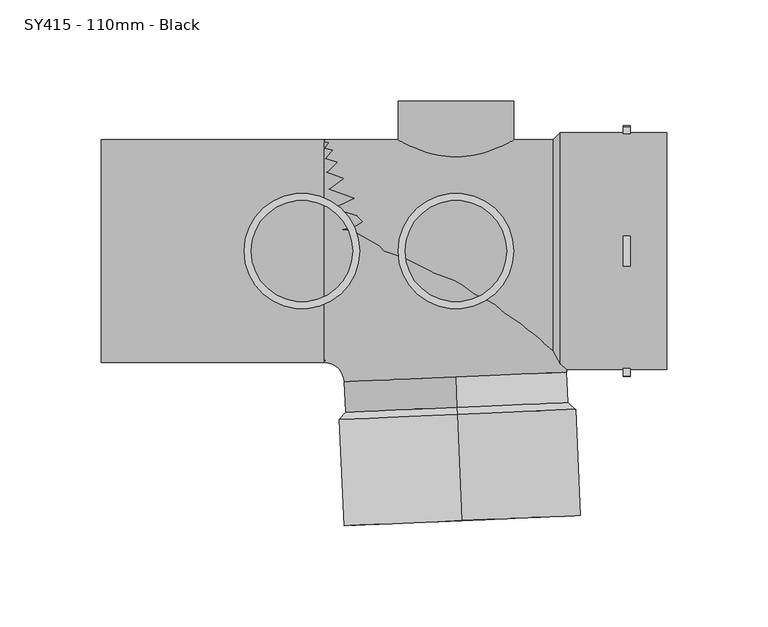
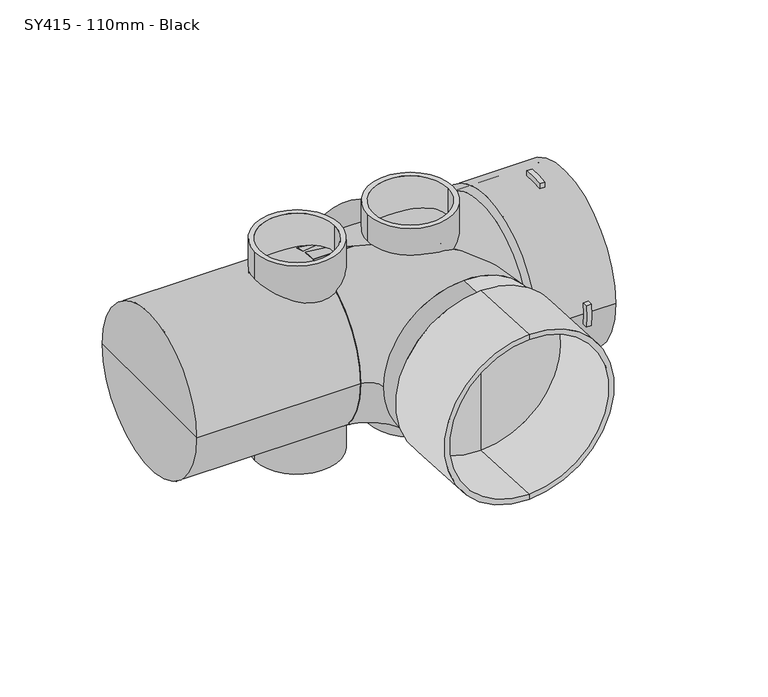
"""IFC4 building model written with IfcOpenShell, lengths in millimetres: pipe fitting geometry, MarleyPlumbingAndDrainage_PipeFitting_FiveBossBranch87-5 : SY415 - 110mm - Black."""

from ifc_helpers import new_model, si_unit, point, frame, frame_2d, origin, origin_2d, place, context, project, spatial, polyline, circle_curve, ellipse_curve, trimmed, segment, composite_curve, outline, extrude, source, transform, mapped, element, save
from ifc_brep_helpers import plane_surface, cylinder_surface, revolved_surface, advanced_brep


def sy415_110mm_black_735aa494(model_context):
    return source(origin(), model_context, "Body", "SolidModel", [
        advanced_brep(
        [(1.1473831, -62.1647398, 55.0), (1.1473831, -62.1647398, -55.0), (1.8016739, -77.1504631, -55.0), (1.8016739, -77.1504631, 55.0), (1.1473831, -62.1647398, 0.0), (1.8016739, -77.1504631, 0.0)],
        [
            (0, 1, circle_curve(frame((1.1473831, -62.1647398, 0.0), z_axis=(0.04361938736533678, -0.9990482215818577, 0.0), x_axis=(0.0, 0.0, -1.0000000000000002)), 55.0)),
            (1, 2),
            (2, 3, circle_curve(frame((1.8016739, -77.1504631, 0.0), z_axis=(-0.04361938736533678, 0.9990482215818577, 0.0), x_axis=(0.0, 0.0, -1.0000000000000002)), 55.0)),
            (3, 0),
            (1, 0, circle_curve(frame((1.1473831, -62.1647398, 0.0), z_axis=(0.04361938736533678, -0.9990482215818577, 0.0), x_axis=(0.0, 0.0, -1.0000000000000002)), 55.0)),
            (3, 2, circle_curve(frame((1.8016739, -77.1504631, 0.0), z_axis=(-0.04361938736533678, 0.9990482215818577, 0.0), x_axis=(0.0, 0.0, -1.0000000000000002)), 55.0)),
            (4, 1),
            (0, 4),
            (2, 5),
            (5, 3),
        ],
        [
            cylinder_surface(frame((-1.0631654, -11.5348565, 0.0), z_axis=(-0.04361938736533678, 0.9990482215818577, 0.0), x_axis=(0.0, 0.0, -1.0000000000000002)), 55.0),
            plane_surface(frame((1.1473831, -62.1647398, 0.0), z_axis=(-0.04361938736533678, 0.9990482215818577, 0.0), x_axis=(0.0, 0.0, -1.0))),
            plane_surface(frame((1.8016739, -77.1504631, 0.0), z_axis=(0.04361938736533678, -0.9990482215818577, 0.0), x_axis=(0.0, 0.0, -1.0))),
        ],
        [
            (0, [[1, 2, 3, 4]]),
            (0, [[5, -4, 6, -2]]),
            (1, [[7, -1, 8]]),
            (1, [[-8, -5, -7]]),
            (2, [[-3, 9, 10]]),
            (2, [[-6, -10, -9]]),
        ],
    ),
        advanced_brep(
        [(4.2443596, -133.0971636, -55.0), (4.2443596, -133.0971636, 55.0), (4.2443596, -133.0971636, 58.5), (4.2443596, -133.0971636, -58.5), (1.9543417, -80.6471319, 58.5), (1.9543417, -80.6471319, -58.5), (1.8016739, -77.1504631, 54.9860468), (1.8016739, -77.1504631, -54.9860468), (1.9543417, -80.6471319, -55.0), (1.9543417, -80.6471319, 55.0), (1.9543417, -80.6471319, 0.0), (1.8016739, -77.1504631, 0.0)],
        [
            (0, 1, circle_curve(frame((4.2443596, -133.0971636, 0.0), z_axis=(-0.04361938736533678, 0.9990482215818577, 0.0), x_axis=(0.0, 0.0, 1.0000000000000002)), 55.0)),
            (1, 2),
            (2, 3, circle_curve(frame((4.2443596, -133.0971636, 0.0), z_axis=(0.04361938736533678, -0.9990482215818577, 0.0), x_axis=(0.0, 0.0, 1.0000000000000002)), 58.5)),
            (3, 0),
            (1, 0, circle_curve(frame((4.2443596, -133.0971636, 0.0), z_axis=(-0.04361938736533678, 0.9990482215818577, 0.0), x_axis=(0.0, 0.0, 1.0000000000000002)), 55.0)),
            (3, 2, circle_curve(frame((4.2443596, -133.0971636, 0.0), z_axis=(0.04361938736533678, -0.9990482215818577, 0.0), x_axis=(0.0, 0.0, 1.0000000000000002)), 58.5)),
            (2, 4),
            (4, 5, circle_curve(frame((1.9543417, -80.6471319, 0.0), z_axis=(0.04361938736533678, -0.9990482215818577, 0.0), x_axis=(0.0, 0.0, 1.0000000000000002)), 58.5)),
            (5, 3),
            (5, 4, circle_curve(frame((1.9543417, -80.6471319, 0.0), z_axis=(0.04361938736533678, -0.9990482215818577, 0.0), x_axis=(0.0, 0.0, 1.0000000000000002)), 58.5)),
            (4, 6),
            (6, 7, circle_curve(frame((1.8016739, -77.1504631, 0.0), z_axis=(0.04361938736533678, -0.9990482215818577, 0.0), x_axis=(0.0, 0.0, 1.0000000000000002)), 54.9860468)),
            (7, 5),
            (7, 6, circle_curve(frame((1.8016739, -77.1504631, 0.0), z_axis=(0.04361938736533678, -0.9990482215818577, 0.0), x_axis=(0.0, 0.0, 1.0000000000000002)), 54.9860468)),
            (8, 9, circle_curve(frame((1.9543417, -80.6471319, 0.0), z_axis=(-0.04361938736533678, 0.9990482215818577, 0.0), x_axis=(0.0, 0.0, 1.0000000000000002)), 55.0)),
            (9, 1),
            (0, 8),
            (9, 8, circle_curve(frame((1.9543417, -80.6471319, 0.0), z_axis=(-0.04361938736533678, 0.9990482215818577, 0.0), x_axis=(0.0, 0.0, 1.0000000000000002)), 55.0)),
            (10, 9),
            (8, 10),
            (6, 11),
            (11, 7),
        ],
        [
            plane_surface(frame((4.2443596, -133.0971636, 0.0), z_axis=(0.04361938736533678, -0.9990482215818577, 0.0), x_axis=(0.0, 0.0, 1.0))),
            cylinder_surface(frame((-1.593666, 0.6156066, 0.0), z_axis=(0.04361938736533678, -0.9990482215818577, 0.0), x_axis=(0.0, 0.0, 1.0000000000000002)), 58.5),
            revolved_surface(polyline([(1.8016739, -77.1504631, 54.9860468), (1.9543417, -80.6471319, 58.5)]), (-1.593666, 0.6156066, 0.0), (0.04361938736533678, -0.9990482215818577, 0.0)),
            revolved_surface(polyline([(4.244359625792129, -133.09716359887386, 55.000000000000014), (1.954341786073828, -80.64713189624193, 55.000000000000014)]), (-1.593666, 0.6156066, 0.0), (0.04361938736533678, -0.9990482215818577, 0.0)),
            plane_surface(frame((1.9543417, -80.6471319, 0.0), z_axis=(0.04361938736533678, -0.9990482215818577, 0.0), x_axis=(0.0, 0.0, 1.0))),
            plane_surface(frame((1.8016739, -77.1504631, 0.0), z_axis=(-0.04361938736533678, 0.9990482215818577, 0.0), x_axis=(0.0, 0.0, 1.0))),
        ],
        [
            (0, [[1, 2, 3, 4]]),
            (0, [[5, -4, 6, -2]]),
            (1, [[-3, 7, 8, 9]]),
            (1, [[-6, -9, 10, -7]]),
            (2, [[-8, 11, 12, 13]]),
            (2, [[-10, -13, 14, -11]]),
            (3, [[15, 16, -1, 17]]),
            (3, [[18, -17, -5, -16]]),
            (4, [[19, -15, 20]]),
            (4, [[-20, -18, -19]]),
            (5, [[-12, 21, 22]]),
            (5, [[-14, -22, -21]]),
        ],
    ),
        advanced_brep(
        [(-63.7907513, -55.0, 0.0), (-63.7907513, 55.0, 0.0), (-53.8002691, -64.5638061, 0.0), (56.0950353, -59.7656735, 0.0)],
        [
            (0, 1, circle_curve(frame((-63.7907513, 0.0, 0.0), z_axis=(-1.0, 0.0, 0.0), x_axis=(0.0, 1.0, 0.0)), 55.0)),
            (1, 0, circle_curve(frame((-63.7907513, 0.0, 0.0), z_axis=(-1.0, 0.0, 0.0), x_axis=(0.0, 1.0, 0.0)), 55.0)),
            (2, 3, circle_curve(frame((1.1473831, -62.1647398, 0.0), z_axis=(0.0436193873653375, -0.9990482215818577, 0.0), x_axis=(0.9990482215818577, 0.0436193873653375, 0.0)), 55.0)),
            (3, 2, circle_curve(frame((1.1473831, -62.1647398, 0.0), z_axis=(0.0436193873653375, -0.9990482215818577, 0.0), x_axis=(0.9990482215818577, 0.0436193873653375, 0.0)), 55.0)),
            (3, 1, circle_curve(frame((-63.7907513, -65.0, 0.0), z_axis=(0.0, 0.0, 1.0), x_axis=(0.0, 1.0, 0.0)), 120.0)),
            (0, 2, circle_curve(frame((-63.7907513, -65.0, 0.0), z_axis=(0.0, 0.0, -1.0), x_axis=(0.0, 1.0, 0.0)), 10.0)),
        ],
        [
            plane_surface(frame((-63.7907513, 0.0, 0.0), z_axis=(-1.0, 0.0, 0.0), x_axis=(0.0, 0.0, 1.0))),
            plane_surface(frame((1.1473831, -62.1647398, 0.0), z_axis=(0.0436193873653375, -0.9990482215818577, 0.0), x_axis=(0.0, 0.0, 1.0))),
            revolved_surface(trimmed(ellipse_curve(frame((-63.7907513, 0.0, 0.0), z_axis=(-1.0, 0.0, 0.0), x_axis=(0.0, 1.0, 0.0)), 55.0, 55.0), [point((-63.7907513, -55.0, 0.0))], [point((-63.7907513, 55.0, 0.0))], True, "CARTESIAN"), (-63.7907513, -65.0, 0.0), (0.0, 0.0, -1.0)),
            revolved_surface(trimmed(ellipse_curve(frame((-63.7907513, 0.0, 0.0), z_axis=(-1.0, 0.0, 0.0), x_axis=(0.0, 1.0, 0.0)), 55.0, 55.0), [point((-63.7907513, 55.0, 0.0))], [point((-63.7907513, -55.0, 0.0))], True, "CARTESIAN"), (-63.7907513, -65.0, 0.0), (0.0, 0.0, -1.0)),
        ],
        [
            (0, [[1, 2]]),
            (1, [[3, 4]]),
            (2, [[5, -1, 6, -4]]),
            (3, [[-6, -2, -5, -3]]),
        ],
    ),
        extrude(outline(composite_curve([segment(trimmed(circle_curve(frame_2d((0.0, 1.3092487)), 28.5), [point((0.0, -27.1907513))], [point((0.0, 29.8092487))], False, "CARTESIAN"), True, "CONTINUOUS"), segment(trimmed(circle_curve(frame_2d((0.0, 1.3092487)), 28.5), [point((0.0, 29.8092487))], [point((0.0, -27.1907513))], False, "CARTESIAN"), True, "CONTINUOUS")], self_intersect=False), holes=[composite_curve([segment(trimmed(circle_curve(frame_2d((0.0, 1.3092487)), 25.0), [point((0.0, -23.6907513))], [point((0.0, 26.3092487))], True, "CARTESIAN"), True, "CONTINUOUS"), segment(trimmed(circle_curve(frame_2d((0.0, 1.3092487)), 25.0), [point((0.0, 26.3092487))], [point((0.0, -23.6907513))], True, "CARTESIAN"), True, "CONTINUOUS")], self_intersect=False)]), frame((0.0, 0.0, 0.0), z_axis=(0.0, 1.0, 0.0), x_axis=(0.0, 0.0, 1.0)), (0.0, 0.0, 1.0), 74.0),
        extrude(outline(composite_curve([segment(polyline([(-58.0172388, -7.5), (-61.5446992, -7.5)]), True, "CONTINUOUS"), segment(trimmed(circle_curve(origin_2d(), 62.0), [point((-61.5446992, -7.5))], [point((-61.5446992, 7.5))], False, "CARTESIAN"), True, "CONTINUOUS"), segment(polyline([(-61.5446992, 7.5), (-58.0172388, 7.5)]), True, "CONTINUOUS"), segment(trimmed(circle_curve(origin_2d(), 58.5), [point((-58.0172388, 7.5))], [point((-58.0172388, -7.5))], True, "CARTESIAN"), True, "CONTINUOUS")], self_intersect=False)), frame((83.8092487, 0.0, 0.0), z_axis=(1.0, 0.0, 0.0), x_axis=(0.0, 1.0, 0.0)), (0.0, 0.0, 1.0), 3.5),
        extrude(outline(composite_curve([segment(trimmed(circle_curve(origin_2d(), 58.5), [point((7.5, 58.0172388))], [point((-7.5, 58.0172388))], True, "CARTESIAN"), True, "CONTINUOUS"), segment(polyline([(-7.5, 58.0172388), (-7.5, 61.5446992)]), True, "CONTINUOUS"), segment(trimmed(circle_curve(origin_2d(), 62.0), [point((-7.5, 61.5446992))], [point((7.5, 61.5446992))], False, "CARTESIAN"), True, "CONTINUOUS"), segment(polyline([(7.5, 61.5446992), (7.5, 58.0172388)]), True, "CONTINUOUS")], self_intersect=False)), frame((83.8092487, 0.0, 0.0), z_axis=(1.0, 0.0, 0.0), x_axis=(0.0, 1.0, 0.0)), (0.0, 0.0, 1.0), 3.5),
        extrude(outline(composite_curve([segment(polyline([(58.0172388, 7.5), (61.5446992, 7.5)]), True, "CONTINUOUS"), segment(trimmed(circle_curve(origin_2d(), 62.0), [point((61.5446992, 7.5))], [point((61.5446992, -7.5))], False, "CARTESIAN"), True, "CONTINUOUS"), segment(polyline([(61.5446992, -7.5), (58.0172388, -7.5)]), True, "CONTINUOUS"), segment(trimmed(circle_curve(origin_2d(), 58.5), [point((58.0172388, -7.5))], [point((58.0172388, 7.5))], True, "CARTESIAN"), True, "CONTINUOUS")], self_intersect=False)), frame((83.8092487, 0.0, 0.0), z_axis=(1.0, 0.0, 0.0), x_axis=(0.0, 1.0, 0.0)), (0.0, 0.0, 1.0), 3.5),
        extrude(outline(composite_curve([segment(polyline([(-7.5, -61.5446992), (-7.5, -58.0172388)]), True, "CONTINUOUS"), segment(trimmed(circle_curve(origin_2d(), 58.5), [point((-7.5, -58.0172388))], [point((7.5, -58.0172388))], True, "CARTESIAN"), True, "CONTINUOUS"), segment(polyline([(7.5, -58.0172388), (7.5, -61.5446992)]), True, "CONTINUOUS"), segment(trimmed(circle_curve(origin_2d(), 62.0), [point((7.5, -61.5446992))], [point((-7.5, -61.5446992))], False, "CARTESIAN"), True, "CONTINUOUS")], self_intersect=False)), frame((83.8092487, 0.0, 0.0), z_axis=(1.0, 0.0, 0.0), x_axis=(0.0, 1.0, 0.0)), (0.0, 0.0, 1.0), 3.5),
        extrude(outline(composite_curve([segment(trimmed(circle_curve(frame_2d((1.3092487, 0.0)), 28.5), [point((-27.1907513, 0.0))], [point((29.8092487, 0.0))], False, "CARTESIAN"), True, "CONTINUOUS"), segment(trimmed(circle_curve(frame_2d((1.3092487, 0.0)), 28.5), [point((29.8092487, 0.0))], [point((-27.1907513, 0.0))], False, "CARTESIAN"), True, "CONTINUOUS")], self_intersect=False), holes=[composite_curve([segment(trimmed(circle_curve(frame_2d((1.3092487, 0.0)), 25.0), [point((-23.6907513, 0.0))], [point((26.3092487, 0.0))], True, "CARTESIAN"), True, "CONTINUOUS"), segment(trimmed(circle_curve(frame_2d((1.3092487, 0.0)), 25.0), [point((26.3092487, 0.0))], [point((-23.6907513, 0.0))], True, "CARTESIAN"), True, "CONTINUOUS")], self_intersect=False)]), frame((0.0, 0.0, -74.0), z_axis=(0.0, 0.0, 1.0), x_axis=(1.0, 0.0, 0.0)), (0.0, 0.0, 1.0), 148.0),
        extrude(outline(composite_curve([segment(trimmed(circle_curve(frame_2d((-74.6907513, 0.0)), 28.5), [point((-103.1907513, 0.0))], [point((-46.1907513, 0.0))], False, "CARTESIAN"), True, "CONTINUOUS"), segment(trimmed(circle_curve(frame_2d((-74.6907513, 0.0)), 28.5), [point((-46.1907513, 0.0))], [point((-103.1907513, 0.0))], False, "CARTESIAN"), True, "CONTINUOUS")], self_intersect=False), holes=[composite_curve([segment(trimmed(circle_curve(frame_2d((-74.6907513, 0.0)), 25.0), [point((-99.6907513, 0.0))], [point((-49.6907513, 0.0))], True, "CARTESIAN"), True, "CONTINUOUS"), segment(trimmed(circle_curve(frame_2d((-74.6907513, 0.0)), 25.0), [point((-49.6907513, 0.0))], [point((-99.6907513, 0.0))], True, "CARTESIAN"), True, "CONTINUOUS")], self_intersect=False)]), frame((0.0, 0.0, -74.0), z_axis=(0.0, 0.0, 1.0), x_axis=(1.0, 0.0, 0.0)), (0.0, 0.0, 1.0), 148.0),
        advanced_brep(
        [(52.8092487, -55.0, 0.0), (52.8092487, 55.0, 0.0), (52.8092487, 0.0, 0.0), (105.3092487, -55.0, 0.0), (105.3092487, 55.0, 0.0), (105.3092487, -58.5, 0.0), (105.3092487, 58.5, 0.0), (52.8092487, -58.5, 0.0), (52.8092487, 58.5, 0.0), (49.3092487, -55.0, 0.0), (49.3092487, 55.0, 0.0), (-173.6907513, -55.0, 0.0), (-173.6907513, 55.0, 0.0), (-173.6907513, 0.0, 0.0)],
        [
            (0, 1, circle_curve(frame((52.8092487, 0.0, 0.0), z_axis=(1.0, 0.0, 0.0), x_axis=(0.0, 1.0, 0.0)), 55.0)),
            (1, 2),
            (2, 0),
            (1, 0, circle_curve(frame((52.8092487, 0.0, 0.0), z_axis=(1.0, 0.0, 0.0), x_axis=(0.0, 1.0, 0.0)), 55.0)),
            (3, 4, circle_curve(frame((105.3092487, 0.0, 0.0), z_axis=(1.0, 0.0, 0.0), x_axis=(0.0, 1.0, 0.0)), 55.0)),
            (4, 1),
            (0, 3),
            (4, 3, circle_curve(frame((105.3092487, 0.0, 0.0), z_axis=(1.0, 0.0, 0.0), x_axis=(0.0, 1.0, 0.0)), 55.0)),
            (5, 6, circle_curve(frame((105.3092487, 0.0, 0.0), z_axis=(1.0, 0.0, 0.0), x_axis=(0.0, 1.0, 0.0)), 58.5)),
            (6, 4),
            (3, 5),
            (6, 5, circle_curve(frame((105.3092487, 0.0, 0.0), z_axis=(1.0, 0.0, 0.0), x_axis=(0.0, 1.0, 0.0)), 58.5)),
            (7, 8, circle_curve(frame((52.8092487, 0.0, 0.0), z_axis=(1.0, 0.0, 0.0), x_axis=(0.0, 1.0, 0.0)), 58.5)),
            (8, 6),
            (5, 7),
            (8, 7, circle_curve(frame((52.8092487, 0.0, 0.0), z_axis=(1.0, 0.0, 0.0), x_axis=(0.0, 1.0, 0.0)), 58.5)),
            (9, 10, circle_curve(frame((49.3092487, 0.0, 0.0), z_axis=(1.0, 0.0, 0.0), x_axis=(0.0, 1.0, 0.0)), 55.0)),
            (10, 8),
            (7, 9),
            (10, 9, circle_curve(frame((49.3092487, 0.0, 0.0), z_axis=(1.0, 0.0, 0.0), x_axis=(0.0, 1.0, 0.0)), 55.0)),
            (11, 12, circle_curve(frame((-173.6907513, 0.0, 0.0), z_axis=(1.0, 0.0, 0.0), x_axis=(0.0, 1.0, 0.0)), 55.0)),
            (12, 10),
            (9, 11),
            (12, 11, circle_curve(frame((-173.6907513, 0.0, 0.0), z_axis=(1.0, 0.0, 0.0), x_axis=(0.0, 1.0, 0.0)), 55.0)),
            (13, 12),
            (11, 13),
        ],
        [
            plane_surface(frame((52.8092487, 0.0, 0.0), z_axis=(1.0, 0.0, 0.0), x_axis=(0.0, 1.0, 0.0))),
            revolved_surface(polyline([(52.80924870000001, 55.0, 0.0), (105.30924870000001, 55.0, 0.0)]), (-271.1239632, 0.0, 0.0), (-1.0, 0.0, 0.0)),
            plane_surface(frame((105.3092487, 0.0, 0.0), z_axis=(1.0, 0.0, 0.0), x_axis=(0.0, 1.0, 0.0))),
            cylinder_surface(frame((-271.1239632, 0.0, 0.0), z_axis=(-1.0, 0.0, 0.0), x_axis=(0.0, 1.0, 0.0)), 58.5),
            revolved_surface(polyline([(52.8092487, 58.5, 0.0), (49.3092487, 55.0, 0.0)]), (-271.1239632, 0.0, 0.0), (-1.0, 0.0, 0.0)),
            cylinder_surface(frame((-271.1239632, 0.0, 0.0), z_axis=(-1.0, 0.0, 0.0), x_axis=(0.0, 1.0, 0.0)), 55.0),
            plane_surface(frame((-173.6907513, 0.0, 0.0), z_axis=(-1.0, 0.0, 0.0), x_axis=(0.0, 1.0, 0.0))),
        ],
        [
            (0, [[1, 2, 3]]),
            (0, [[4, -3, -2]]),
            (1, [[5, 6, -1, 7]]),
            (1, [[8, -7, -4, -6]]),
            (2, [[9, 10, -5, 11]]),
            (2, [[12, -11, -8, -10]]),
            (3, [[13, 14, -9, 15]]),
            (3, [[16, -15, -12, -14]]),
            (4, [[17, 18, -13, 19]]),
            (4, [[20, -19, -16, -18]]),
            (5, [[21, 22, -17, 23]]),
            (5, [[24, -23, -20, -22]]),
            (6, [[25, -21, 26]]),
            (6, [[-26, -24, -25]]),
        ],
    ),
    ])


if __name__ == "__main__":
    model = new_model("IFC4")
    model_context = context("Model", 3, world=origin())
    ifc_project = project(units=[si_unit("LENGTHUNIT", "METRE", prefix="MILLI")], contexts=[model_context])
    site = spatial("IfcSite", under=ifc_project)
    building = spatial("IfcBuilding", under=site)
    placement = place(None, origin())
    sy415_110mm_black_shape = sy415_110mm_black_735aa494(model_context)
    element("IfcPipeFitting", 1, ObjectType="MarleyPlumbingAndDrainage_PipeFitting_FiveBossBranch87-5 : SY415 - 110mm - Black", at=placement, inside=building, context=model_context, shape_type="MappedRepresentation", body=[
        mapped(sy415_110mm_black_shape, transform((0.0, 0.0, 0.0), x_axis=(1.0, 0.0, 0.0), y_axis=(0.0, 1.0, 0.0), z_axis=(0.0, 0.0, 1.0))),
    ])
    save(model, "model.ifc")
